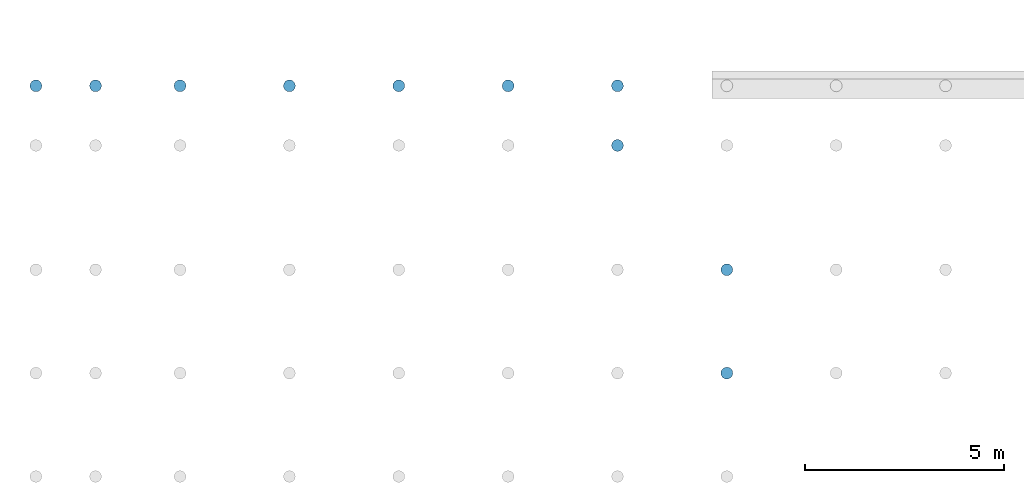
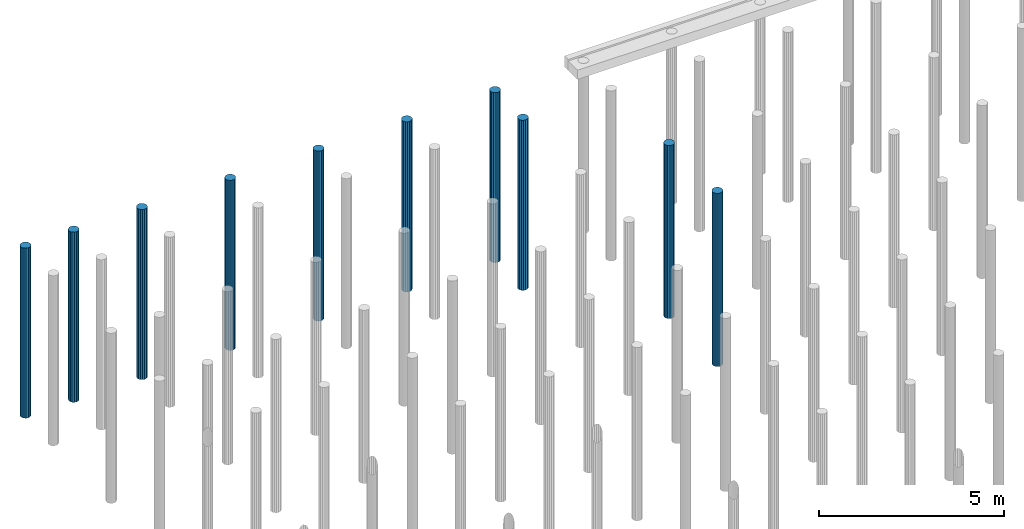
# One storey, part 70 of 102: 10 slabs.
"""IFC2X3 building model written with IfcOpenShell, lengths in millimetres."""

from ifc_helpers import new_model, entity, si_unit, converted_unit, derived_unit, money_unit, direction, frame, origin_with_axes, place, context, subcontext, project, spatial, faceted_brep, material, type_object, element, save


model = new_model("IFC2X3")

# Units and contexts
model_context = context("Model", 3, precision=0.01, world=origin_with_axes(), true_north=direction((0.0, 1.0)))
body_context = subcontext(model_context, "Body", "Model", "MODEL_VIEW")
ifc_project = project(units=[si_unit("LENGTHUNIT", "METRE", prefix="MILLI"), si_unit("AREAUNIT", "SQUARE_METRE"), si_unit("VOLUMEUNIT", "CUBIC_METRE"), converted_unit("PLANEANGLEUNIT", "DEGREE", entity("IfcPlaneAngleMeasure", 0.0174532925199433), si_unit("PLANEANGLEUNIT", "RADIAN"), dimensions=[0, 0, 0, 0, 0, 0, 0]), money_unit("EUR"), converted_unit("TIMEUNIT", "Year", entity("IfcTimeMeasure", 31557600.0), si_unit("TIMEUNIT", "SECOND"), dimensions=[0, 0, 1, 0, 0, 0, 0]), si_unit("MASSUNIT", "GRAM", prefix="KILO"), si_unit("THERMODYNAMICTEMPERATUREUNIT", "DEGREE_CELSIUS"), si_unit("LUMINOUSINTENSITYUNIT", "LUMEN"), si_unit("ENERGYUNIT", "JOULE", prefix="MEGA"), derived_unit("THERMALCONDUCTANCEUNIT", [(si_unit("POWERUNIT", "WATT"), 1), (si_unit("LENGTHUNIT", "METRE"), -1), (si_unit("THERMODYNAMICTEMPERATUREUNIT", "KELVIN"), -1)]), derived_unit("SPECIFICHEATCAPACITYUNIT", [(si_unit("ENERGYUNIT", "JOULE"), 1), (si_unit("MASSUNIT", "GRAM", prefix="KILO"), -1), (si_unit("THERMODYNAMICTEMPERATUREUNIT", "KELVIN"), -1)]), derived_unit("MASSDENSITYUNIT", [(si_unit("MASSUNIT", "GRAM", prefix="KILO"), 1), (si_unit("VOLUMEUNIT", "CUBIC_METRE"), -1)])], contexts=[model_context])

# Site, building, storey
site_placement = place(None, origin_with_axes())
site = spatial("IfcSite", under=ifc_project, at=site_placement, Name="Site", CompositionType="ELEMENT")
building_placement = place(site_placement, origin_with_axes())
building = spatial("IfcBuilding", under=site, at=building_placement, Name="Naam gebouw", CompositionType="ELEMENT")
storey_placement = place(building_placement, frame((0.0, 0.0, -1020.0), z_axis=(0.0, 0.0, 1.0), x_axis=(1.0, 0.0, 0.0)))
storey = spatial("IfcBuildingStorey", under=building, at=storey_placement, Name="-2 fundering", CompositionType="ELEMENT", Elevation=-1020.0)

# Slabs
ifc_material = material(Name="WSP_beton - ihwg beton")
slab_type_1 = type_object("IfcSlabType", Name="Slab 136", PredefinedType="NOTDEFINED")
slab_1_placement = place(storey_placement, frame((25299.99999999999, 30000.0, 979.9999952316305), z_axis=(0.0, 0.0, 1.0), x_axis=(1.0, 0.0, 0.0)))
element("IfcSlab", 1, at=slab_1_placement, inside=storey, type_object=slab_type_1, material=ifc_material, Name="17_WSP_FD_beton - fundatiepaal v21-2:ø300 (schroef)", PredefinedType="NOTDEFINED", context=body_context, shape_type="Brep", body=[
    faceted_brep([(1601.0, 64726.0, -5980.0), (1599.0, 64726.0, -5980.0), (1599.0, 64726.0, -5978.000000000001), (1601.0, 64726.0, -5978.000000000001), (1601.0, 64723.99999999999, -5980.0), (1599.0, 64723.99999999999, -5980.0), (1599.0, 64723.99999999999, -5978.000000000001), (1601.0, 64723.99999999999, -5978.000000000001)], [[[0, 1, 2, 3]], [[0, 4, 5, 1]], [[1, 5, 6, 2]], [[3, 2, 6, 7]], [[4, 0, 3, 7]], [[5, 4, 7, 6]]]),
    faceted_brep([(1450.0, 64724.99999999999, -5980.0), (1461.418070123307, 64667.59748514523, -5980.0), (1461.418070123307, 64667.59748514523, -380.0000000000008), (1450.0, 64724.99999999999, -380.0000000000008), (1461.418070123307, 64782.40251485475, -5980.0), (1493.933982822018, 64831.06601717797, -5980.0), (1542.597485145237, 64863.58192987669, -5980.0), (1600.0, 64875.0, -5980.0), (1657.402514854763, 64863.58192987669, -5980.0), (1706.066017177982, 64831.06601717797, -5980.0), (1738.581929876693, 64782.40251485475, -5980.0), (1750.0, 64724.99999999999, -5980.0), (1738.581929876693, 64667.59748514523, -5980.0), (1706.066017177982, 64618.93398282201, -5980.0), (1657.402514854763, 64586.4180701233, -5980.0), (1600.0, 64574.99999999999, -5980.0), (1542.597485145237, 64586.4180701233, -5980.0), (1493.933982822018, 64618.93398282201, -5980.0), (1493.933982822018, 64618.93398282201, -380.0000000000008), (1542.597485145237, 64586.4180701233, -380.0000000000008), (1600.0, 64574.99999999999, -380.0000000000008), (1657.402514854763, 64586.4180701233, -380.0000000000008), (1706.066017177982, 64618.93398282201, -380.0000000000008), (1738.581929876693, 64667.59748514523, -380.0000000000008), (1750.0, 64724.99999999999, -380.0000000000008), (1738.581929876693, 64782.40251485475, -380.0000000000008), (1706.066017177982, 64831.06601717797, -380.0000000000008), (1657.402514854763, 64863.58192987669, -380.0000000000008), (1600.0, 64875.0, -380.0000000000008), (1542.597485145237, 64863.58192987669, -380.0000000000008), (1493.933982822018, 64831.06601717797, -380.0000000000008), (1461.418070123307, 64782.40251485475, -380.0000000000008)], [[[0, 1, 2, 3]], [[0, 4, 5, 6, 7, 8, 9, 10, 11, 12, 13, 14, 15, 16, 17, 1]], [[1, 17, 18, 2]], [[3, 2, 18, 19, 20, 21, 22, 23, 24, 25, 26, 27, 28, 29, 30, 31]], [[4, 0, 3, 31]], [[5, 4, 31, 30]], [[6, 5, 30, 29]], [[7, 6, 29, 28]], [[8, 7, 28, 27]], [[9, 8, 27, 26]], [[10, 9, 26, 25]], [[11, 10, 25, 24]], [[12, 11, 24, 23]], [[13, 12, 23, 22]], [[14, 13, 22, 21]], [[15, 14, 21, 20]], [[16, 15, 20, 19]], [[17, 16, 19, 18]]]),
])
slab_type_2 = type_object("IfcSlabType", Name="Slab 146", PredefinedType="NOTDEFINED")
slab_2_placement = place(storey_placement, frame((25299.99999999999, 30000.0, 979.9999952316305), z_axis=(0.0, 0.0, 1.0), x_axis=(1.0, 0.0, 0.0)))
element("IfcSlab", 2, at=slab_2_placement, inside=storey, type_object=slab_type_2, material=ifc_material, Name="17_WSP_FD_beton - fundatiepaal v21-2:ø300 (schroef)", PredefinedType="NOTDEFINED", context=body_context, shape_type="Brep", body=[
    faceted_brep([(14726.0, 64726.0, -5980.0), (14724.0, 64726.0, -5980.0), (14724.0, 64726.0, -5978.000000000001), (14726.0, 64726.0, -5978.000000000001), (14726.0, 64723.99999999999, -5980.0), (14724.0, 64723.99999999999, -5980.0), (14724.0, 64723.99999999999, -5978.000000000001), (14726.0, 64723.99999999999, -5978.000000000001)], [[[0, 1, 2, 3]], [[0, 4, 5, 1]], [[1, 5, 6, 2]], [[3, 2, 6, 7]], [[4, 0, 3, 7]], [[5, 4, 7, 6]]]),
    faceted_brep([(14575.0, 64724.99999999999, -5980.0), (14586.41807012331, 64667.59748514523, -5980.0), (14586.41807012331, 64667.59748514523, -380.0000000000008), (14575.0, 64724.99999999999, -380.0000000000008), (14586.41807012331, 64782.40251485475, -5980.0), (14618.93398282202, 64831.06601717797, -5980.0), (14667.59748514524, 64863.58192987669, -5980.0), (14725.0, 64875.0, -5980.0), (14782.40251485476, 64863.58192987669, -5980.0), (14831.06601717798, 64831.06601717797, -5980.0), (14863.58192987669, 64782.40251485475, -5980.0), (14875.0, 64724.99999999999, -5980.0), (14863.58192987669, 64667.59748514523, -5980.0), (14831.06601717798, 64618.93398282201, -5980.0), (14782.40251485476, 64586.4180701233, -5980.0), (14725.0, 64574.99999999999, -5980.0), (14667.59748514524, 64586.4180701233, -5980.0), (14618.93398282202, 64618.93398282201, -5980.0), (14618.93398282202, 64618.93398282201, -380.0000000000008), (14667.59748514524, 64586.4180701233, -380.0000000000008), (14725.0, 64574.99999999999, -380.0000000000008), (14782.40251485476, 64586.4180701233, -380.0000000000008), (14831.06601717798, 64618.93398282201, -380.0000000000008), (14863.58192987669, 64667.59748514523, -380.0000000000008), (14875.0, 64724.99999999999, -380.0000000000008), (14863.58192987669, 64782.40251485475, -380.0000000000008), (14831.06601717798, 64831.06601717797, -380.0000000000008), (14782.40251485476, 64863.58192987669, -380.0000000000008), (14725.0, 64875.0, -380.0000000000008), (14667.59748514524, 64863.58192987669, -380.0000000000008), (14618.93398282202, 64831.06601717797, -380.0000000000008), (14586.41807012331, 64782.40251485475, -380.0000000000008)], [[[0, 1, 2, 3]], [[0, 4, 5, 6, 7, 8, 9, 10, 11, 12, 13, 14, 15, 16, 17, 1]], [[1, 17, 18, 2]], [[3, 2, 18, 19, 20, 21, 22, 23, 24, 25, 26, 27, 28, 29, 30, 31]], [[4, 0, 3, 31]], [[5, 4, 31, 30]], [[6, 5, 30, 29]], [[7, 6, 29, 28]], [[8, 7, 28, 27]], [[9, 8, 27, 26]], [[10, 9, 26, 25]], [[11, 10, 25, 24]], [[12, 11, 24, 23]], [[13, 12, 23, 22]], [[14, 13, 22, 21]], [[15, 14, 21, 20]], [[16, 15, 20, 19]], [[17, 16, 19, 18]]]),
])
slab_type_3 = type_object("IfcSlabType", Name="Slab 150", PredefinedType="NOTDEFINED")
slab_3_placement = place(storey_placement, frame((25299.99999999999, 30000.0, 979.9999952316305), z_axis=(0.0, 0.0, 1.0), x_axis=(1.0, 0.0, 0.0)))
element("IfcSlab", 3, at=slab_3_placement, inside=storey, type_object=slab_type_3, material=ifc_material, Name="17_WSP_FD_beton - fundatiepaal v21-2:ø300 (schroef)", PredefinedType="NOTDEFINED", context=body_context, shape_type="Brep", body=[
    faceted_brep([(3726.0, 64726.0, -5980.0), (3724.0, 64726.0, -5980.0), (3724.0, 64726.0, -5978.000000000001), (3726.0, 64726.0, -5978.000000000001), (3726.0, 64723.99999999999, -5980.0), (3724.0, 64723.99999999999, -5980.0), (3724.0, 64723.99999999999, -5978.000000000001), (3726.0, 64723.99999999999, -5978.000000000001)], [[[0, 1, 2, 3]], [[0, 4, 5, 1]], [[1, 5, 6, 2]], [[3, 2, 6, 7]], [[4, 0, 3, 7]], [[5, 4, 7, 6]]]),
    faceted_brep([(3575.0, 64724.99999999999, -5980.0), (3586.418070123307, 64667.59748514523, -5980.0), (3586.418070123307, 64667.59748514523, -380.0000000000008), (3575.0, 64724.99999999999, -380.0000000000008), (3586.418070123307, 64782.40251485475, -5980.0), (3618.933982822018, 64831.06601717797, -5980.0), (3667.597485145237, 64863.58192987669, -5980.0), (3725.0, 64875.0, -5980.0), (3782.402514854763, 64863.58192987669, -5980.0), (3831.066017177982, 64831.06601717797, -5980.0), (3863.581929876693, 64782.40251485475, -5980.0), (3875.0, 64724.99999999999, -5980.0), (3863.581929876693, 64667.59748514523, -5980.0), (3831.066017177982, 64618.93398282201, -5980.0), (3782.402514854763, 64586.4180701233, -5980.0), (3725.0, 64574.99999999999, -5980.0), (3667.597485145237, 64586.4180701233, -5980.0), (3618.933982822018, 64618.93398282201, -5980.0), (3618.933982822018, 64618.93398282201, -380.0000000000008), (3667.597485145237, 64586.4180701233, -380.0000000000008), (3725.0, 64574.99999999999, -380.0000000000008), (3782.402514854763, 64586.4180701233, -380.0000000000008), (3831.066017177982, 64618.93398282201, -380.0000000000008), (3863.581929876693, 64667.59748514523, -380.0000000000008), (3875.0, 64724.99999999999, -380.0000000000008), (3863.581929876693, 64782.40251485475, -380.0000000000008), (3831.066017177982, 64831.06601717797, -380.0000000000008), (3782.402514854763, 64863.58192987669, -380.0000000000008), (3725.0, 64875.0, -380.0000000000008), (3667.597485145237, 64863.58192987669, -380.0000000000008), (3618.933982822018, 64831.06601717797, -380.0000000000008), (3586.418070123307, 64782.40251485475, -380.0000000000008)], [[[0, 1, 2, 3]], [[0, 4, 5, 6, 7, 8, 9, 10, 11, 12, 13, 14, 15, 16, 17, 1]], [[1, 17, 18, 2]], [[3, 2, 18, 19, 20, 21, 22, 23, 24, 25, 26, 27, 28, 29, 30, 31]], [[4, 0, 3, 31]], [[5, 4, 31, 30]], [[6, 5, 30, 29]], [[7, 6, 29, 28]], [[8, 7, 28, 27]], [[9, 8, 27, 26]], [[10, 9, 26, 25]], [[11, 10, 25, 24]], [[12, 11, 24, 23]], [[13, 12, 23, 22]], [[14, 13, 22, 21]], [[15, 14, 21, 20]], [[16, 15, 20, 19]], [[17, 16, 19, 18]]]),
])
slab_type_4 = type_object("IfcSlabType", Name="Slab 149", PredefinedType="NOTDEFINED")
slab_4_placement = place(storey_placement, frame((25299.99999999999, 30000.0, 979.9999952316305), z_axis=(0.0, 0.0, 1.0), x_axis=(1.0, 0.0, 0.0)))
element("IfcSlab", 4, at=slab_4_placement, inside=storey, type_object=slab_type_4, material=ifc_material, Name="17_WSP_FD_beton - fundatiepaal v21-2:ø300 (schroef)", PredefinedType="NOTDEFINED", context=body_context, shape_type="Brep", body=[
    faceted_brep([(6476.0, 64726.0, -5980.0), (6473.999999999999, 64726.0, -5980.0), (6473.999999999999, 64726.0, -5978.000000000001), (6476.0, 64726.0, -5978.000000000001), (6476.0, 64723.99999999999, -5980.0), (6473.999999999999, 64723.99999999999, -5980.0), (6473.999999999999, 64723.99999999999, -5978.000000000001), (6476.0, 64723.99999999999, -5978.000000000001)], [[[0, 1, 2, 3]], [[0, 4, 5, 1]], [[1, 5, 6, 2]], [[3, 2, 6, 7]], [[4, 0, 3, 7]], [[5, 4, 7, 6]]]),
    faceted_brep([(6324.999999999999, 64724.99999999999, -5980.0), (6336.418070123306, 64667.59748514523, -5980.0), (6336.418070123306, 64667.59748514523, -380.0000000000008), (6324.999999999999, 64724.99999999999, -380.0000000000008), (6336.418070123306, 64782.40251485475, -5980.0), (6368.933982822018, 64831.06601717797, -5980.0), (6417.597485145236, 64863.58192987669, -5980.0), (6475.0, 64875.0, -5980.0), (6532.402514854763, 64863.58192987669, -5980.0), (6581.066017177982, 64831.06601717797, -5980.0), (6613.581929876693, 64782.40251485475, -5980.0), (6625.0, 64724.99999999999, -5980.0), (6613.581929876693, 64667.59748514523, -5980.0), (6581.066017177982, 64618.93398282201, -5980.0), (6532.402514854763, 64586.4180701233, -5980.0), (6475.0, 64574.99999999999, -5980.0), (6417.597485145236, 64586.4180701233, -5980.0), (6368.933982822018, 64618.93398282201, -5980.0), (6368.933982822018, 64618.93398282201, -380.0000000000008), (6417.597485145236, 64586.4180701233, -380.0000000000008), (6475.0, 64574.99999999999, -380.0000000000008), (6532.402514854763, 64586.4180701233, -380.0000000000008), (6581.066017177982, 64618.93398282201, -380.0000000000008), (6613.581929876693, 64667.59748514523, -380.0000000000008), (6625.0, 64724.99999999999, -380.0000000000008), (6613.581929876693, 64782.40251485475, -380.0000000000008), (6581.066017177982, 64831.06601717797, -380.0000000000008), (6532.402514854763, 64863.58192987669, -380.0000000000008), (6475.0, 64875.0, -380.0000000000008), (6417.597485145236, 64863.58192987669, -380.0000000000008), (6368.933982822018, 64831.06601717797, -380.0000000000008), (6336.418070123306, 64782.40251485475, -380.0000000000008)], [[[0, 1, 2, 3]], [[0, 4, 5, 6, 7, 8, 9, 10, 11, 12, 13, 14, 15, 16, 17, 1]], [[1, 17, 18, 2]], [[3, 2, 18, 19, 20, 21, 22, 23, 24, 25, 26, 27, 28, 29, 30, 31]], [[4, 0, 3, 31]], [[5, 4, 31, 30]], [[6, 5, 30, 29]], [[7, 6, 29, 28]], [[8, 7, 28, 27]], [[9, 8, 27, 26]], [[10, 9, 26, 25]], [[11, 10, 25, 24]], [[12, 11, 24, 23]], [[13, 12, 23, 22]], [[14, 13, 22, 21]], [[15, 14, 21, 20]], [[16, 15, 20, 19]], [[17, 16, 19, 18]]]),
])
slab_type_5 = type_object("IfcSlabType", Name="Slab 151", PredefinedType="NOTDEFINED")
slab_5_placement = place(storey_placement, frame((25299.99999999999, 30000.0, 979.9999952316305), z_axis=(0.0, 0.0, 1.0), x_axis=(1.0, 0.0, 0.0)))
element("IfcSlab", 5, at=slab_5_placement, inside=storey, type_object=slab_type_5, material=ifc_material, Name="17_WSP_FD_beton - fundatiepaal v21-2:ø300 (schroef)", PredefinedType="NOTDEFINED", context=body_context, shape_type="Brep", body=[
    faceted_brep([(11976.0, 64726.0, -5980.0), (11974.0, 64726.0, -5980.0), (11974.0, 64726.0, -5978.000000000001), (11976.0, 64726.0, -5978.000000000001), (11976.0, 64723.99999999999, -5980.0), (11974.0, 64723.99999999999, -5980.0), (11974.0, 64723.99999999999, -5978.000000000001), (11976.0, 64723.99999999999, -5978.000000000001)], [[[0, 1, 2, 3]], [[0, 4, 5, 1]], [[1, 5, 6, 2]], [[3, 2, 6, 7]], [[4, 0, 3, 7]], [[5, 4, 7, 6]]]),
    faceted_brep([(11825.0, 64724.99999999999, -5980.0), (11836.41807012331, 64667.59748514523, -5980.0), (11836.41807012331, 64667.59748514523, -380.0000000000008), (11825.0, 64724.99999999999, -380.0000000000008), (11836.41807012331, 64782.40251485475, -5980.0), (11868.93398282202, 64831.06601717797, -5980.0), (11917.59748514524, 64863.58192987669, -5980.0), (11975.0, 64875.0, -5980.0), (12032.40251485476, 64863.58192987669, -5980.0), (12081.06601717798, 64831.06601717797, -5980.0), (12113.58192987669, 64782.40251485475, -5980.0), (12125.0, 64724.99999999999, -5980.0), (12113.58192987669, 64667.59748514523, -5980.0), (12081.06601717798, 64618.93398282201, -5980.0), (12032.40251485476, 64586.4180701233, -5980.0), (11975.0, 64574.99999999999, -5980.0), (11917.59748514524, 64586.4180701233, -5980.0), (11868.93398282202, 64618.93398282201, -5980.0), (11868.93398282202, 64618.93398282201, -380.0000000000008), (11917.59748514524, 64586.4180701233, -380.0000000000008), (11975.0, 64574.99999999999, -380.0000000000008), (12032.40251485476, 64586.4180701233, -380.0000000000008), (12081.06601717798, 64618.93398282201, -380.0000000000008), (12113.58192987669, 64667.59748514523, -380.0000000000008), (12125.0, 64724.99999999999, -380.0000000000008), (12113.58192987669, 64782.40251485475, -380.0000000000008), (12081.06601717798, 64831.06601717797, -380.0000000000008), (12032.40251485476, 64863.58192987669, -380.0000000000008), (11975.0, 64875.0, -380.0000000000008), (11917.59748514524, 64863.58192987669, -380.0000000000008), (11868.93398282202, 64831.06601717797, -380.0000000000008), (11836.41807012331, 64782.40251485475, -380.0000000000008)], [[[0, 1, 2, 3]], [[0, 4, 5, 6, 7, 8, 9, 10, 11, 12, 13, 14, 15, 16, 17, 1]], [[1, 17, 18, 2]], [[3, 2, 18, 19, 20, 21, 22, 23, 24, 25, 26, 27, 28, 29, 30, 31]], [[4, 0, 3, 31]], [[5, 4, 31, 30]], [[6, 5, 30, 29]], [[7, 6, 29, 28]], [[8, 7, 28, 27]], [[9, 8, 27, 26]], [[10, 9, 26, 25]], [[11, 10, 25, 24]], [[12, 11, 24, 23]], [[13, 12, 23, 22]], [[14, 13, 22, 21]], [[15, 14, 21, 20]], [[16, 15, 20, 19]], [[17, 16, 19, 18]]]),
])
slab_type_6 = type_object("IfcSlabType", Name="Slab 152", PredefinedType="NOTDEFINED")
slab_6_placement = place(storey_placement, frame((25299.99999999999, 30000.0, 979.9999952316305), z_axis=(0.0, 0.0, 1.0), x_axis=(1.0, 0.0, 0.0)))
element("IfcSlab", 6, at=slab_6_placement, inside=storey, type_object=slab_type_6, material=ifc_material, Name="17_WSP_FD_beton - fundatiepaal v21-2:ø300 (schroef)", PredefinedType="NOTDEFINED", context=body_context, shape_type="Brep", body=[
    faceted_brep([(9226.0, 64726.0, -5980.0), (9224.0, 64726.0, -5980.0), (9224.0, 64726.0, -5978.000000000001), (9226.0, 64726.0, -5978.000000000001), (9226.0, 64723.99999999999, -5980.0), (9224.0, 64723.99999999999, -5980.0), (9224.0, 64723.99999999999, -5978.000000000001), (9226.0, 64723.99999999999, -5978.000000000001)], [[[0, 1, 2, 3]], [[0, 4, 5, 1]], [[1, 5, 6, 2]], [[3, 2, 6, 7]], [[4, 0, 3, 7]], [[5, 4, 7, 6]]]),
    faceted_brep([(9075.0, 64724.99999999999, -5980.0), (9086.418070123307, 64667.59748514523, -5980.0), (9086.418070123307, 64667.59748514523, -380.0000000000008), (9075.0, 64724.99999999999, -380.0000000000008), (9086.418070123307, 64782.40251485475, -5980.0), (9118.933982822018, 64831.06601717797, -5980.0), (9167.597485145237, 64863.58192987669, -5980.0), (9225.0, 64875.0, -5980.0), (9282.402514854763, 64863.58192987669, -5980.0), (9331.066017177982, 64831.06601717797, -5980.0), (9363.581929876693, 64782.40251485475, -5980.0), (9375.0, 64724.99999999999, -5980.0), (9363.581929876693, 64667.59748514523, -5980.0), (9331.066017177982, 64618.93398282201, -5980.0), (9282.402514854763, 64586.4180701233, -5980.0), (9225.0, 64574.99999999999, -5980.0), (9167.597485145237, 64586.4180701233, -5980.0), (9118.933982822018, 64618.93398282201, -5980.0), (9118.933982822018, 64618.93398282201, -380.0000000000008), (9167.597485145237, 64586.4180701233, -380.0000000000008), (9225.0, 64574.99999999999, -380.0000000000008), (9282.402514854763, 64586.4180701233, -380.0000000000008), (9331.066017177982, 64618.93398282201, -380.0000000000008), (9363.581929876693, 64667.59748514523, -380.0000000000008), (9375.0, 64724.99999999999, -380.0000000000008), (9363.581929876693, 64782.40251485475, -380.0000000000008), (9331.066017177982, 64831.06601717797, -380.0000000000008), (9282.402514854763, 64863.58192987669, -380.0000000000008), (9225.0, 64875.0, -380.0000000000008), (9167.597485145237, 64863.58192987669, -380.0000000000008), (9118.933982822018, 64831.06601717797, -380.0000000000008), (9086.418070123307, 64782.40251485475, -380.0000000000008)], [[[0, 1, 2, 3]], [[0, 4, 5, 6, 7, 8, 9, 10, 11, 12, 13, 14, 15, 16, 17, 1]], [[1, 17, 18, 2]], [[3, 2, 18, 19, 20, 21, 22, 23, 24, 25, 26, 27, 28, 29, 30, 31]], [[4, 0, 3, 31]], [[5, 4, 31, 30]], [[6, 5, 30, 29]], [[7, 6, 29, 28]], [[8, 7, 28, 27]], [[9, 8, 27, 26]], [[10, 9, 26, 25]], [[11, 10, 25, 24]], [[12, 11, 24, 23]], [[13, 12, 23, 22]], [[14, 13, 22, 21]], [[15, 14, 21, 20]], [[16, 15, 20, 19]], [[17, 16, 19, 18]]]),
])
slab_type_7 = type_object("IfcSlabType", Name="Slab 155", PredefinedType="NOTDEFINED")
slab_7_placement = place(storey_placement, frame((25299.99999999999, 30000.0, 979.9999952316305), z_axis=(0.0, 0.0, 1.0), x_axis=(1.0, 0.0, 0.0)))
element("IfcSlab", 7, at=slab_7_placement, inside=storey, type_object=slab_type_7, material=ifc_material, Name="17_WSP_FD_beton - fundatiepaal v21-2:ø300 (schroef)", PredefinedType="NOTDEFINED", context=body_context, shape_type="Brep", body=[
    faceted_brep([(17476.0, 57501.0, -5980.0), (17474.0, 57501.0, -5980.0), (17474.0, 57501.0, -5978.000000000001), (17476.0, 57501.0, -5978.000000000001), (17476.0, 57499.0, -5980.0), (17474.0, 57499.0, -5980.0), (17474.0, 57499.0, -5978.000000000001), (17476.0, 57499.0, -5978.000000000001)], [[[0, 1, 2, 3]], [[0, 4, 5, 1]], [[1, 5, 6, 2]], [[3, 2, 6, 7]], [[4, 0, 3, 7]], [[5, 4, 7, 6]]]),
    faceted_brep([(17325.0, 57500.0, -5980.0), (17336.41807012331, 57442.59748514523, -5980.0), (17336.41807012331, 57442.59748514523, -280.0000000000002), (17325.0, 57500.0, -280.0000000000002), (17336.41807012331, 57557.40251485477, -5980.0), (17368.93398282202, 57606.06601717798, -5980.0), (17417.59748514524, 57638.58192987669, -5980.0), (17475.0, 57650.0, -5980.0), (17532.40251485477, 57638.58192987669, -5980.0), (17581.06601717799, 57606.06601717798, -5980.0), (17613.58192987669, 57557.40251485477, -5980.0), (17625.0, 57500.0, -5980.0), (17613.58192987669, 57442.59748514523, -5980.0), (17581.06601717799, 57393.93398282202, -5980.0), (17532.40251485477, 57361.41807012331, -5980.0), (17475.0, 57350.0, -5980.0), (17417.59748514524, 57361.41807012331, -5980.0), (17368.93398282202, 57393.93398282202, -5980.0), (17368.93398282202, 57393.93398282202, -280.0000000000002), (17417.59748514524, 57361.41807012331, -280.0000000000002), (17475.0, 57350.0, -280.0000000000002), (17532.40251485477, 57361.41807012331, -280.0000000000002), (17581.06601717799, 57393.93398282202, -280.0000000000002), (17613.58192987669, 57442.59748514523, -280.0000000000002), (17625.0, 57500.0, -280.0000000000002), (17613.58192987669, 57557.40251485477, -280.0000000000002), (17581.06601717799, 57606.06601717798, -280.0000000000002), (17532.40251485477, 57638.58192987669, -280.0000000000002), (17475.0, 57650.0, -280.0000000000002), (17417.59748514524, 57638.58192987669, -280.0000000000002), (17368.93398282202, 57606.06601717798, -280.0000000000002), (17336.41807012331, 57557.40251485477, -280.0000000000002)], [[[0, 1, 2, 3]], [[0, 4, 5, 6, 7, 8, 9, 10, 11, 12, 13, 14, 15, 16, 17, 1]], [[1, 17, 18, 2]], [[3, 2, 18, 19, 20, 21, 22, 23, 24, 25, 26, 27, 28, 29, 30, 31]], [[4, 0, 3, 31]], [[5, 4, 31, 30]], [[6, 5, 30, 29]], [[7, 6, 29, 28]], [[8, 7, 28, 27]], [[9, 8, 27, 26]], [[10, 9, 26, 25]], [[11, 10, 25, 24]], [[12, 11, 24, 23]], [[13, 12, 23, 22]], [[14, 13, 22, 21]], [[15, 14, 21, 20]], [[16, 15, 20, 19]], [[17, 16, 19, 18]]]),
])
slab_type_8 = type_object("IfcSlabType", Name="Slab 165", PredefinedType="NOTDEFINED")
slab_8_placement = place(storey_placement, frame((25299.99999999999, 30000.0, 979.9999952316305), z_axis=(0.0, 0.0, 1.0), x_axis=(1.0, 0.0, 0.0)))
element("IfcSlab", 8, at=slab_8_placement, inside=storey, type_object=slab_type_8, material=ifc_material, Name="17_WSP_FD_beton - fundatiepaal v21-2:ø300 (schroef)", PredefinedType="NOTDEFINED", context=body_context, shape_type="Brep", body=[
    faceted_brep([(17476.0, 60101.0, -5980.0), (17474.0, 60101.0, -5980.0), (17474.0, 60101.0, -5978.000000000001), (17476.0, 60101.0, -5978.000000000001), (17476.0, 60099.00000000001, -5980.0), (17474.0, 60099.00000000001, -5980.0), (17474.0, 60099.00000000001, -5978.000000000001), (17476.0, 60099.00000000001, -5978.000000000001)], [[[0, 1, 2, 3]], [[0, 4, 5, 1]], [[1, 5, 6, 2]], [[3, 2, 6, 7]], [[4, 0, 3, 7]], [[5, 4, 7, 6]]]),
    faceted_brep([(17325.0, 60100.0, -5980.0), (17336.41807012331, 60042.59748514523, -5980.0), (17336.41807012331, 60042.59748514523, -280.0000000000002), (17325.0, 60100.0, -280.0000000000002), (17336.41807012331, 60157.40251485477, -5980.0), (17368.93398282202, 60206.06601717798, -5980.0), (17417.59748514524, 60238.58192987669, -5980.0), (17475.0, 60250.0, -5980.0), (17532.40251485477, 60238.58192987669, -5980.0), (17581.06601717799, 60206.06601717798, -5980.0), (17613.58192987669, 60157.40251485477, -5980.0), (17625.0, 60100.0, -5980.0), (17613.58192987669, 60042.59748514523, -5980.0), (17581.06601717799, 59993.93398282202, -5980.0), (17532.40251485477, 59961.41807012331, -5980.0), (17475.0, 59950.0, -5980.0), (17417.59748514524, 59961.41807012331, -5980.0), (17368.93398282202, 59993.93398282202, -5980.0), (17368.93398282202, 59993.93398282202, -280.0000000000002), (17417.59748514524, 59961.41807012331, -280.0000000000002), (17475.0, 59950.0, -280.0000000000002), (17532.40251485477, 59961.41807012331, -280.0000000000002), (17581.06601717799, 59993.93398282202, -280.0000000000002), (17613.58192987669, 60042.59748514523, -280.0000000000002), (17625.0, 60100.0, -280.0000000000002), (17613.58192987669, 60157.40251485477, -280.0000000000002), (17581.06601717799, 60206.06601717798, -280.0000000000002), (17532.40251485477, 60238.58192987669, -280.0000000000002), (17475.0, 60250.0, -280.0000000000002), (17417.59748514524, 60238.58192987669, -280.0000000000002), (17368.93398282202, 60206.06601717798, -280.0000000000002), (17336.41807012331, 60157.40251485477, -280.0000000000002)], [[[0, 1, 2, 3]], [[0, 4, 5, 6, 7, 8, 9, 10, 11, 12, 13, 14, 15, 16, 17, 1]], [[1, 17, 18, 2]], [[3, 2, 18, 19, 20, 21, 22, 23, 24, 25, 26, 27, 28, 29, 30, 31]], [[4, 0, 3, 31]], [[5, 4, 31, 30]], [[6, 5, 30, 29]], [[7, 6, 29, 28]], [[8, 7, 28, 27]], [[9, 8, 27, 26]], [[10, 9, 26, 25]], [[11, 10, 25, 24]], [[12, 11, 24, 23]], [[13, 12, 23, 22]], [[14, 13, 22, 21]], [[15, 14, 21, 20]], [[16, 15, 20, 19]], [[17, 16, 19, 18]]]),
])
slab_type_9 = type_object("IfcSlabType", Name="Slab 376", PredefinedType="NOTDEFINED")
slab_9_placement = place(storey_placement, frame((25299.99999999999, 30000.0, 979.9999952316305), z_axis=(0.0, 0.0, 1.0), x_axis=(1.0, 0.0, 0.0)))
element("IfcSlab", 9, at=slab_9_placement, inside=storey, type_object=slab_type_9, material=ifc_material, Name="17_WSP_FD_beton - fundatiepaal v21-2:ø300 (schroef)", PredefinedType="NOTDEFINED", context=body_context, shape_type="Brep", body=[
    faceted_brep([(14726.0, 63226.0, -5980.0), (14724.0, 63226.0, -5980.0), (14724.0, 63226.0, -5978.000000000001), (14726.0, 63226.0, -5978.000000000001), (14726.0, 63224.00000000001, -5980.0), (14724.0, 63224.00000000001, -5980.0), (14724.0, 63224.00000000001, -5978.000000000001), (14726.0, 63224.00000000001, -5978.000000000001)], [[[0, 1, 2, 3]], [[0, 4, 5, 1]], [[1, 5, 6, 2]], [[3, 2, 6, 7]], [[4, 0, 3, 7]], [[5, 4, 7, 6]]]),
    faceted_brep([(14575.0, 63225.0, -5980.0), (14586.41807012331, 63167.59748514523, -5980.0), (14586.41807012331, 63167.59748514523, -380.0000000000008), (14575.0, 63225.0, -380.0000000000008), (14586.41807012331, 63282.40251485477, -5980.0), (14618.93398282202, 63331.06601717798, -5980.0), (14667.59748514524, 63363.58192987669, -5980.0), (14725.0, 63375.0, -5980.0), (14782.40251485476, 63363.58192987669, -5980.0), (14831.06601717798, 63331.06601717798, -5980.0), (14863.58192987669, 63282.40251485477, -5980.0), (14875.0, 63225.0, -5980.0), (14863.58192987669, 63167.59748514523, -5980.0), (14831.06601717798, 63118.93398282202, -5980.0), (14782.40251485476, 63086.41807012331, -5980.0), (14725.0, 63075.0, -5980.0), (14667.59748514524, 63086.41807012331, -5980.0), (14618.93398282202, 63118.93398282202, -5980.0), (14618.93398282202, 63118.93398282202, -380.0000000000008), (14667.59748514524, 63086.41807012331, -380.0000000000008), (14725.0, 63075.0, -380.0000000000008), (14782.40251485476, 63086.41807012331, -380.0000000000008), (14831.06601717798, 63118.93398282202, -380.0000000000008), (14863.58192987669, 63167.59748514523, -380.0000000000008), (14875.0, 63225.0, -380.0000000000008), (14863.58192987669, 63282.40251485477, -380.0000000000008), (14831.06601717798, 63331.06601717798, -380.0000000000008), (14782.40251485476, 63363.58192987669, -380.0000000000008), (14725.0, 63375.0, -380.0000000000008), (14667.59748514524, 63363.58192987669, -380.0000000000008), (14618.93398282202, 63331.06601717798, -380.0000000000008), (14586.41807012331, 63282.40251485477, -380.0000000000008)], [[[0, 1, 2, 3]], [[0, 4, 5, 6, 7, 8, 9, 10, 11, 12, 13, 14, 15, 16, 17, 1]], [[1, 17, 18, 2]], [[3, 2, 18, 19, 20, 21, 22, 23, 24, 25, 26, 27, 28, 29, 30, 31]], [[4, 0, 3, 31]], [[5, 4, 31, 30]], [[6, 5, 30, 29]], [[7, 6, 29, 28]], [[8, 7, 28, 27]], [[9, 8, 27, 26]], [[10, 9, 26, 25]], [[11, 10, 25, 24]], [[12, 11, 24, 23]], [[13, 12, 23, 22]], [[14, 13, 22, 21]], [[15, 14, 21, 20]], [[16, 15, 20, 19]], [[17, 16, 19, 18]]]),
])
slab_type_10 = type_object("IfcSlabType", Name="Slab 934", PredefinedType="NOTDEFINED")
slab_10_placement = place(storey_placement, frame((25299.99999999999, 30000.0, 979.9999952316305), z_axis=(0.0, 0.0, 1.0), x_axis=(1.0, 0.0, 0.0)))
element("IfcSlab", 10, at=slab_10_placement, inside=storey, type_object=slab_type_10, material=ifc_material, Name="17_WSP_FD_beton - fundatiepaal v21-2:ø300 (schroef)", PredefinedType="NOTDEFINED", context=body_context, shape_type="Brep", body=[
    faceted_brep([(101.0, 64726.0, -5980.0), (99.0, 64726.0, -5980.0), (99.0, 64726.0, -5978.000000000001), (101.0, 64726.0, -5978.000000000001), (101.0, 64723.99999999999, -5980.0), (99.0, 64723.99999999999, -5980.0), (99.0, 64723.99999999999, -5978.000000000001), (101.0, 64723.99999999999, -5978.000000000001)], [[[0, 1, 2, 3]], [[0, 4, 5, 1]], [[1, 5, 6, 2]], [[3, 2, 6, 7]], [[4, 0, 3, 7]], [[5, 4, 7, 6]]]),
    faceted_brep([(-50.00000000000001, 64724.99999999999, -5980.0), (-38.58192987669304, 64667.59748514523, -5980.0), (-38.58192987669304, 64667.59748514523, -380.0000000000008), (-50.00000000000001, 64724.99999999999, -380.0000000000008), (-38.58192987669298, 64782.40251485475, -5980.0), (-6.066017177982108, 64831.06601717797, -5980.0), (42.59748514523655, 64863.58192987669, -5980.0), (100.0, 64875.0, -5980.0), (157.4025148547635, 64863.58192987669, -5980.0), (206.0660171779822, 64831.06601717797, -5980.0), (238.581929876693, 64782.40251485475, -5980.0), (250.0, 64724.99999999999, -5980.0), (238.581929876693, 64667.59748514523, -5980.0), (206.0660171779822, 64618.93398282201, -5980.0), (157.4025148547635, 64586.4180701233, -5980.0), (100.0, 64574.99999999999, -5980.0), (42.5974851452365, 64586.4180701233, -5980.0), (-6.066017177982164, 64618.93398282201, -5980.0), (-6.066017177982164, 64618.93398282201, -380.0000000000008), (42.5974851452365, 64586.4180701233, -380.0000000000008), (100.0, 64574.99999999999, -380.0000000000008), (157.4025148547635, 64586.4180701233, -380.0000000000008), (206.0660171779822, 64618.93398282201, -380.0000000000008), (238.581929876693, 64667.59748514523, -380.0000000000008), (250.0, 64724.99999999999, -380.0000000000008), (238.581929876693, 64782.40251485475, -380.0000000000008), (206.0660171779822, 64831.06601717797, -380.0000000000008), (157.4025148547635, 64863.58192987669, -380.0000000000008), (100.0, 64875.0, -380.0000000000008), (42.59748514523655, 64863.58192987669, -380.0000000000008), (-6.066017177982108, 64831.06601717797, -380.0000000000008), (-38.58192987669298, 64782.40251485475, -380.0000000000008)], [[[0, 1, 2, 3]], [[0, 4, 5, 6, 7, 8, 9, 10, 11, 12, 13, 14, 15, 16, 17, 1]], [[1, 17, 18, 2]], [[3, 2, 18, 19, 20, 21, 22, 23, 24, 25, 26, 27, 28, 29, 30, 31]], [[4, 0, 3, 31]], [[5, 4, 31, 30]], [[6, 5, 30, 29]], [[7, 6, 29, 28]], [[8, 7, 28, 27]], [[9, 8, 27, 26]], [[10, 9, 26, 25]], [[11, 10, 25, 24]], [[12, 11, 24, 23]], [[13, 12, 23, 22]], [[14, 13, 22, 21]], [[15, 14, 21, 20]], [[16, 15, 20, 19]], [[17, 16, 19, 18]]]),
])

save(model, "model.ifc")
